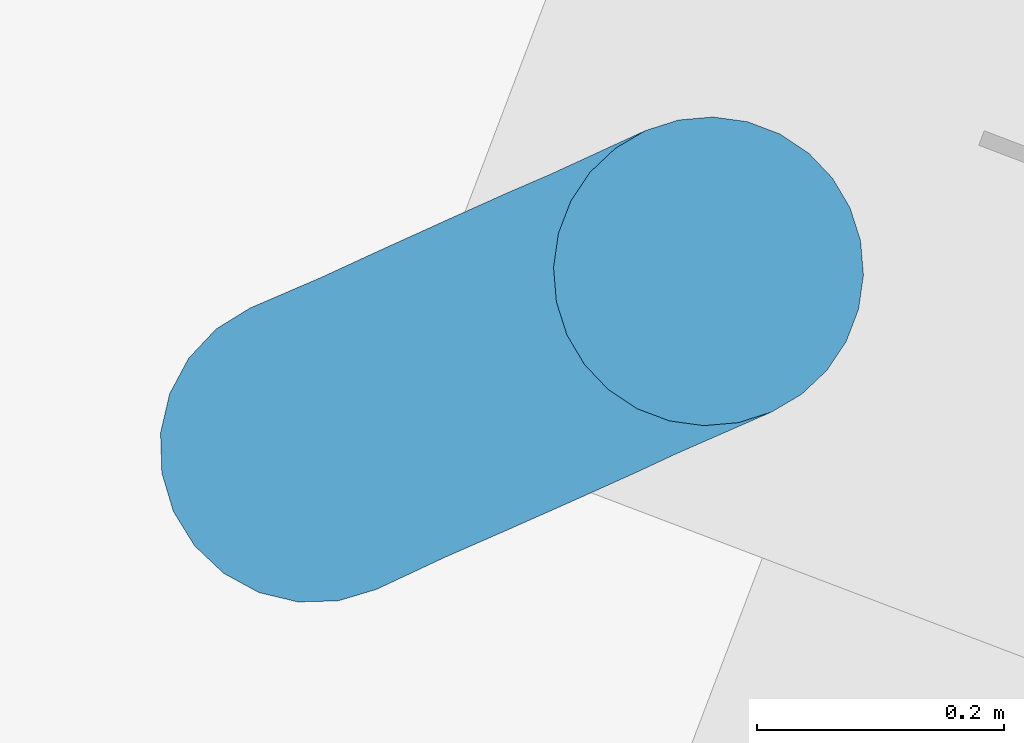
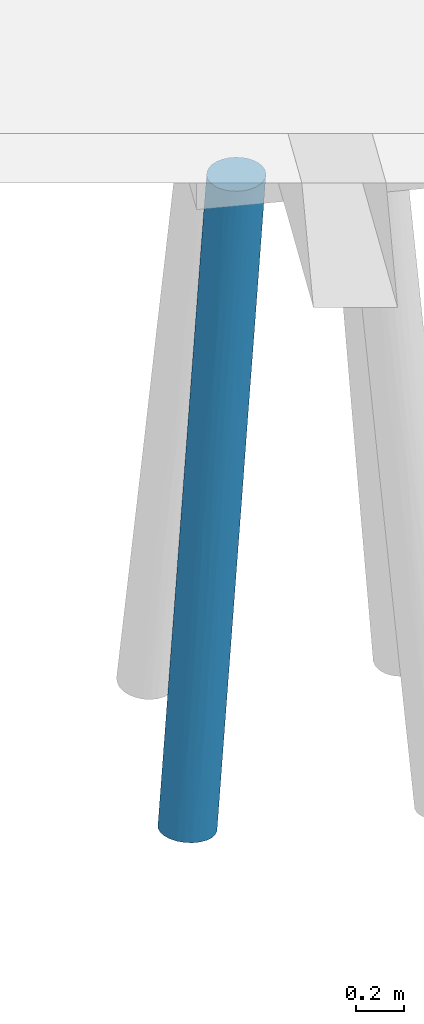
# One storey, part 25 of 46: 1 pile.
"""IFC2X3 building model written with IfcOpenShell, lengths in millimetres."""

import ifcopenshell
import ifcopenshell.guid

model = None  # the IFC model being written
_history = None  # IfcOwnerHistory: only IFC2X3 demands one
_inside = {}  # id of a spatial element -> (the spatial element, [elements in it])
_under = {}  # id of a project, library or spatial element -> (it, [spatial elements below it])
_declared = {}  # id of a project -> (the project, [libraries it declares])
_typed = {}  # id of a type object -> (the type object, [elements of that type])
_made_of = {}  # id of a material, layer set ... -> (it, [elements and type objects made of it])


def new_model(schema):
    """Start an empty IFC model of exactly this schema.

    Asked for "IFC4X3", IfcOpenShell would pick the latest addendum, in which some entities
    have other attributes; the version numbers below select the first issue.
    IFC2X3 requires an IfcOwnerHistory on every rooted entity: one is made here for all.
    """
    global model, _history
    if schema == "IFC4X3":
        model = ifcopenshell.file(schema_version=(4, 3, 0, 0))
    else:
        model = ifcopenshell.file(schema=schema)
    _inside.clear()
    _under.clear()
    _declared.clear()
    _typed.clear()
    _made_of.clear()
    _history = None
    if model.schema == "IFC2X3":
        org = make("IfcOrganization", Name="unknown")
        user = make(
            "IfcPersonAndOrganization",
            ThePerson=make("IfcPerson", FamilyName="unknown"),
            TheOrganization=org,
        )
        app = make(
            "IfcApplication",
            ApplicationDeveloper=org,
            Version="unknown",
            ApplicationFullName="unknown",
            ApplicationIdentifier="unknown",
        )
        _history = make(
            "IfcOwnerHistory",
            OwningUser=user,
            OwningApplication=app,
            ChangeAction="ADDED",
            CreationDate=0,
        )
    return model


def make(cls, **values):
    """One entity of the class cls with the attributes given. An attribute that is None is left unset."""
    return model.create_entity(
        cls, **{name: value for name, value in values.items() if value is not None}
    )


def entity(cls, *values):
    """Any entity or typed value of the class cls, its attributes in the order of the schema. None: left unset."""
    e = model.create_entity(cls)
    for i, value in enumerate(values):
        if value is not None:
            e[i] = value
    return e


def rooted(cls, **values):
    """An entity with a GlobalId (a new one), such as an element, a storey or a relation."""
    return make(cls, GlobalId=ifcopenshell.guid.new(), OwnerHistory=_history, **values)


def si_unit(unit_type, name, prefix=None):
    """IfcSIUnit, for example si_unit("LENGTHUNIT", "METRE", prefix="MILLI")."""
    return make("IfcSIUnit", UnitType=unit_type, Prefix=prefix, Name=name)


def converted_unit(unit_type, name, factor, base, dimensions=None, offset=None):
    """IfcConversionBasedUnit, such as the inch: factor (a typed value) times the base unit."""
    return make(
        "IfcConversionBasedUnit"
        if offset is None
        else "IfcConversionBasedUnitWithOffset",
        ConversionOffset=offset,
        Dimensions=None
        if dimensions is None
        else entity("IfcDimensionalExponents", *dimensions),
        UnitType=unit_type,
        Name=name,
        ConversionFactor=make(
            "IfcMeasureWithUnit", ValueComponent=factor, UnitComponent=base
        ),
    )


def derived_unit(unit_type, elements):
    """IfcDerivedUnit: a product of units, each with its exponent."""
    return make(
        "IfcDerivedUnit",
        Elements=[
            make("IfcDerivedUnitElement", Unit=unit, Exponent=power)
            for unit, power in elements
        ],
        UnitType=unit_type,
    )


def assignment(units):
    """IfcUnitAssignment: the units of a project."""
    return None if units is None else make("IfcUnitAssignment", Units=units)


def point(xyz):
    """IfcCartesianPoint."""
    return None if xyz is None else make("IfcCartesianPoint", Coordinates=xyz)


def direction(xyz):
    """IfcDirection."""
    return None if xyz is None else make("IfcDirection", DirectionRatios=xyz)


def frame(location, z_axis=None, x_axis=None):
    """IfcAxis2Placement3D, a coordinate frame: its origin and axes. An axis left out is left unset."""
    return make(
        "IfcAxis2Placement3D",
        Location=point(location),
        Axis=direction(z_axis),
        RefDirection=direction(x_axis),
    )


def origin():
    """The frame at (0, 0, 0) with its axes left unset."""
    return frame((0.0, 0.0, 0.0))


def place(relative_to, where):
    """IfcLocalPlacement: puts the frame where relative to a parent placement (None: the world)."""
    return make(
        "IfcLocalPlacement", PlacementRelTo=relative_to, RelativePlacement=where
    )


def context(
    kind, dimensions, precision=None, world=None, true_north=None, identifier=None
):
    """IfcGeometricRepresentationContext, for example the 3D "Model" context."""
    return make(
        "IfcGeometricRepresentationContext",
        ContextIdentifier=identifier,
        ContextType=kind,
        CoordinateSpaceDimension=dimensions,
        Precision=precision,
        WorldCoordinateSystem=world,
        TrueNorth=true_north,
    )


def subcontext(parent, identifier, kind, view, scale=None):
    """IfcGeometricRepresentationSubContext, for example "Body" below "Model"."""
    return make(
        "IfcGeometricRepresentationSubContext",
        ContextIdentifier=identifier,
        ContextType=kind,
        ParentContext=parent,
        TargetScale=scale,
        TargetView=view,
    )


def project(units=None, contexts=None):
    """IfcProject with its units and contexts."""
    return rooted(
        "IfcProject",
        Name="project",
        RepresentationContexts=contexts,
        UnitsInContext=assignment(units),
    )


def spatial(cls, under=None, at=None, **own):
    """A site, building, storey or space (cls), placed at a placement, below another one or the project."""
    s = rooted(cls, ObjectPlacement=at, **own)
    if under is not None:
        _under.setdefault(under.id(), (under, []))[1].append(s)
    return s


def faces_of(points, faces, orient=None, outer=None):
    """IfcFace entities. A face is a list of loops; a loop is a list of indices into points, from 0.

    orient and outer hold one flag for each loop. By default every Orientation is true, the
    first loop of a face is its IfcFaceOuterBound and the others are IfcFaceBound.
    """
    made = []
    for i, loops in enumerate(faces):
        bounds = []
        for j, loop in enumerate(loops):
            is_outer = j == 0 if outer is None else outer[i][j]
            bounds.append(
                make(
                    "IfcFaceOuterBound" if is_outer else "IfcFaceBound",
                    Bound=make("IfcPolyLoop", Polygon=[points[k] for k in loop]),
                    Orientation=True if orient is None else orient[i][j],
                )
            )
        made.append(make("IfcFace", Bounds=bounds))
    return made


def faceted_brep(points, faces, orient=None, outer=None, voids=None):
    """IfcFacetedBrep: a solid bounded by flat faces; with voids (closed shells), ...WithVoids."""
    shared = [point(p) for p in points]
    hull = make("IfcClosedShell", CfsFaces=faces_of(shared, faces, orient, outer))
    if voids is None:
        return make("IfcFacetedBrep", Outer=hull)
    return make(
        "IfcFacetedBrepWithVoids",
        Outer=hull,
        Voids=[
            make(cls, CfsFaces=faces_of(shared, fs, o, b)) for cls, fs, o, b in voids
        ],
    )


def shape(context_of_items, identifier, shape_type, items):
    """IfcShapeRepresentation: the items that make up one representation, for example the "Body"."""
    return make(
        "IfcShapeRepresentation",
        ContextOfItems=context_of_items,
        RepresentationIdentifier=identifier,
        RepresentationType=shape_type,
        Items=items,
    )


def source(mapping_origin, context_of_items, identifier, shape_type, items):
    """IfcRepresentationMap: a shape defined once, which mapped items show again and again."""
    return make(
        "IfcRepresentationMap",
        MappingOrigin=mapping_origin,
        MappedRepresentation=shape(context_of_items, identifier, shape_type, items),
    )


def transform(
    local_origin,
    x_axis=None,
    y_axis=None,
    z_axis=None,
    scale=None,
    scale2=None,
    scale3=None,
    uniform=True,
):
    """IfcCartesianTransformationOperator3D, or its non-uniform kind. x_axis, y_axis, z_axis: its Axis1, 2, 3."""
    if uniform:
        return make(
            "IfcCartesianTransformationOperator3D",
            Axis1=direction(x_axis),
            Axis2=direction(y_axis),
            LocalOrigin=point(local_origin),
            Scale=scale,
            Axis3=direction(z_axis),
        )
    return make(
        "IfcCartesianTransformationOperator3DnonUniform",
        Axis1=direction(x_axis),
        Axis2=direction(y_axis),
        LocalOrigin=point(local_origin),
        Scale=scale,
        Axis3=direction(z_axis),
        Scale2=scale2,
        Scale3=scale3,
    )


def mapped(mapping_source, mapping_target):
    """IfcMappedItem: shows the shape of a source again, moved by a transform."""
    return make(
        "IfcMappedItem", MappingSource=mapping_source, MappingTarget=mapping_target
    )


def material(Name=None, Category=None):
    """IfcMaterial."""
    return make("IfcMaterial", Name=Name, Category=Category)


def made_of(thing, what):
    """Note that an element or type object is made of a material, layer set ...; save() writes the relation."""
    if what is not None:
        _made_of.setdefault(what.id(), (what, []))[1].append(thing)
    return thing


def type_object(cls, material=None, **own):
    """A type object (cls), such as IfcWallType, which elements share."""
    return made_of(rooted(cls, **own), material)


def type_shapes(of_type, sources):
    """Give a type object the sources (RepresentationMaps) that its elements show as mapped items."""
    of_type.RepresentationMaps = sources


def element(
    cls,
    number,
    at=None,
    inside=None,
    cuts=None,
    type_object=None,
    material=None,
    context=None,
    identifier="Body",
    shape_type=None,
    held_by="IfcProductDefinitionShape",
    body=None,
    shapes=None,
    **own,
):
    """One element of the class cls, such as IfcWall. Its Tag is "e" and its number.

    at: its placement. inside: the storey or other place that contains it. cuts: it is an
    opening in that element (IfcRelVoidsElement). A single representation is given by context,
    identifier, shape_type and body (its items); several are given by shapes. held_by: the class
    of the entity that holds the representations. save() writes the other relations.
    """
    e = rooted(cls, Tag="e%d" % number, ObjectPlacement=at, **own)
    if body is not None:
        shapes = [shape(context, identifier, shape_type, body)]
    if shapes is not None:
        e.Representation = make(held_by, Representations=shapes)
    if inside is not None:
        _inside.setdefault(inside.id(), (inside, []))[1].append(e)
    if cuts is not None:
        rooted(
            "IfcRelVoidsElement", RelatingBuildingElement=cuts, RelatedOpeningElement=e
        )
    if type_object is not None:
        _typed.setdefault(type_object.id(), (type_object, []))[1].append(e)
    return made_of(e, material)


def aggregate(whole, parts):
    """IfcRelAggregates: a whole, such as a stair, and the parts it consists of."""
    return rooted("IfcRelAggregates", RelatingObject=whole, RelatedObjects=parts)


def save(model, path):
    """Write the relations noted so far, then the file.

    IfcRelAggregates (storeys below a building ...), IfcRelContainedInSpatialStructure (elements
    in a storey), IfcRelDefinesByType, IfcRelAssociatesMaterial and IfcRelDeclares: one each for
    every whole, place, type object, material and project.
    """
    for whole, parts in _under.values():
        aggregate(whole, parts)
    for where, things in _inside.values():
        rooted(
            "IfcRelContainedInSpatialStructure",
            RelatedElements=things,
            RelatingStructure=where,
        )
    for kind, things in _typed.values():
        rooted("IfcRelDefinesByType", RelatedObjects=things, RelatingType=kind)
    for what, things in _made_of.values():
        rooted("IfcRelAssociatesMaterial", RelatedObjects=things, RelatingMaterial=what)
    for by, libraries in _declared.values():
        rooted("IfcRelDeclares", RelatingContext=by, RelatedDefinitions=libraries)
    model.write(path)


model = new_model("IFC2X3")

# Units and contexts
model_context = context("Model", 3, precision=0.01, world=origin(), true_north=direction((6.123233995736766e-17, 1.0)))
body_context = subcontext(model_context, "Body", "Model", "MODEL_VIEW")
ifc_project = project(units=[si_unit("LENGTHUNIT", "METRE", prefix="MILLI"), converted_unit("PLANEANGLEUNIT", "DEGREE", entity("IfcPlaneAngleMeasure", 0.017453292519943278), si_unit("PLANEANGLEUNIT", "RADIAN"), dimensions=[0, 0, 0, 0, 0, 0, 0]), si_unit("AREAUNIT", "SQUARE_METRE"), derived_unit("THERMALTRANSMITTANCEUNIT", [(si_unit("MASSUNIT", "GRAM", prefix="KILO"), 1), (si_unit("THERMODYNAMICTEMPERATUREUNIT", "KELVIN"), -1), (si_unit("TIMEUNIT", "SECOND"), -3)])], contexts=[model_context])

# Site, building, storey
site_placement = place(None, frame((-72937.88054949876, 11621.45624098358, 0.0), z_axis=(0.0, 0.0, 1.0), x_axis=(0.9346418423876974, -0.35559053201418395, 0.0)))
site = spatial("IfcSite", under=ifc_project, at=site_placement, Name="Default", CompositionType="ELEMENT")
building_placement = place(site_placement, origin())
building = spatial("IfcBuilding", under=site, at=building_placement, CompositionType="ELEMENT")
storey_placement = place(building_placement, origin())
storey = spatial("IfcBuildingStorey", under=building, at=storey_placement, Name="00 begane grond", CompositionType="ELEMENT", Elevation=0.0)

# Pile
ifc_material = material(Name="beton_gewapend_prefab-element_c45/55")
type_product = type_object("IfcTypeProduct", Name="Type 01", material=ifc_material)
shared_shape = source(origin(), body_context, "Body", "Brep", [
    faceted_brep([(50.02983679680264, 41.219149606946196, -1478.3429510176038), (41.770052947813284, 0.0, -1615.992665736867), (-21.492869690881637, 34.07967924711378, -2142.478153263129), (-196.51418126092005, 41.35907440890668, -1560.459568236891), (-209.7685117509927, 0.0, -1615.993463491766), (-120.39371842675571, 27.815116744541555, -840.0), (-105.46135978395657, 105.60554685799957, -2414.744852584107), (-29.01608810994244, 89.9027707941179, -1907.5825387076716), (-88.8773638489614, 91.39060439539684, -2432.143714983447), (44.04069234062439, 66.4881713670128, -1422.150587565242), (100.55257203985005, 77.93622523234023, -840.0), (115.53639022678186, 54.235467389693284, -840.0), (-181.63351961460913, 47.83542906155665, -3540.4622999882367), (-228.8866429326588, 32.35238063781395, -4013.333582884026), (-241.29781855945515, 62.499999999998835, -4011.9545633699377), (124.838162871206, 27.815116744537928, -840.0), (127.99146025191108, 0.0, -840.0), (80.6380595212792, 97.7289353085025, -840.0), (-1.0422673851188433, 115.29700921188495, -1306.6345347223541), (56.79144948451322, 112.62110848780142, -840.0), (-82.66188090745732, 124.23733970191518, -1479.1096584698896), (-119.59016639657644, 124.77532272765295, -1868.4753366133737), (-148.0004270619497, 121.55050259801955, -1927.9224619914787), (-25.764066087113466, 121.86598902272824, -840.0), (2.2222222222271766, 125.0, -840.0), (35.238837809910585, 88.30507823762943, -1343.9943162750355), (30.208510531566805, 121.86598902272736, -840.0), (-38.42848163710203, 123.4640225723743, -1382.7576650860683), (-59.298226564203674, 117.91120533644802, -1769.4495348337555), (-121.64165871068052, 118.88184081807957, -2304.5646505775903), (-105.46067851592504, 124.17311504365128, -1939.1271630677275), (-181.54271840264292, 0.0, -3625.807607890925), (-224.65342205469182, 0.0, -4013.803940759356), (-186.42266103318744, 99.1691675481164, -3226.87509877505), (-111.16783038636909, 79.40373738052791, -2734.7208670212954), (-187.86059930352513, 76.09517863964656, -3448.7603995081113), (-294.2594631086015, 123.9306076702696, -3360.5895502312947), (-348.8888888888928, 125.0, -4000.0), (-381.04339378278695, 120.74072828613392, -3996.4272772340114), (-71.50265177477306, 37.61355729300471, -2582.985799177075), (-105.1394697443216, 22.11026756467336, -2920.330251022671), (-119.53291308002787, 47.835429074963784, -2981.5568411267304), (-160.26870491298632, 23.53094104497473, -3414.1045295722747), (-238.88036705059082, 115.48494156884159, -3443.09153660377), (-286.7711554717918, 108.25317547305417, -4006.901970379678), (-261.04114782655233, 88.38834764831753, -4009.7608601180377), (-316.7343839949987, 120.74072828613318, -4003.5727227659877), (-61.65923548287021, 74.64816535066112, -2322.8523974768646), (-84.00174733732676, 60.02171841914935, -2608.908596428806), (-151.97718420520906, 123.99260475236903, -2371.21148137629), (-173.2739820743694, 115.31995815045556, -2856.223431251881), (-123.54701580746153, 0.0, -840.0), (-295.99000769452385, 0.0, -2391.9869269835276), (-250.82857575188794, 22.617884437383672, -2004.2180489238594), (-107.44397040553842, 105.89787173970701, -1225.6035634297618), (-76.19361507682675, 97.72893530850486, -840.0), (-52.347005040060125, 112.6211084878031, -840.0), (-281.4812245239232, 123.93060767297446, -3541.076638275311), (-109.06614769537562, 117.57336724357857, -1457.2474766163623), (-111.0919457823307, 54.235467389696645, -840.0), (-15.85514051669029, 105.72630914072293, -1606.5585830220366), (-158.7756678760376, 105.96661342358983, -1688.5825591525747), (-146.68659472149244, 88.47759853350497, -1380.5978408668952), (-404.9818286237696, 23.95962394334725, -3393.901362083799), (-384.5571817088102, 0.0, -3189.0914931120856), (-348.5966640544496, 22.310072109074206, -2883.6216315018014), (-456.47995921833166, 62.500000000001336, -3988.0454366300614), (-468.89113484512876, 32.35238063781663, -3986.6664171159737), (-416.28748070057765, 47.83542904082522, -3560.8267027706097), (-337.6622645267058, 115.48494156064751, -3465.7921474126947), (-411.00662230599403, 108.25317547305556, -3993.0980296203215), (-204.57839676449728, 89.69967503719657, -1912.868459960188), (-241.9682357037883, 100.09571921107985, -2359.71747411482), (-255.69185443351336, 84.13968982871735, -2324.129304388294), (-96.10812759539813, 77.93622523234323, -840.0), (-377.92930595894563, 99.16916753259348, -3572.292603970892), (-436.73662995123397, 88.38834764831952, -3990.239139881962), (-206.9618348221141, 60.37792335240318, -1731.5361763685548), (-296.17437932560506, 43.53585544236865, -2464.5182361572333), (-358.4295495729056, 47.83542903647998, -3040.1053226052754), (-379.61635653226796, 76.09517861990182, -3378.5322028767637), (-430.0136077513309, 0.0, -3598.1993274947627), (-306.3551153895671, 77.61365432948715, -2729.901333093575), (-213.4617402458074, 118.14633713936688, -2411.4959163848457), (-159.2186646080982, 65.41382269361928, -1328.4086999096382), (-67.97340634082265, 109.92592992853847, -2010.6352011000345), (-179.43548008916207, 124.76102802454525, -2404.960456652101), (-13.219750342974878, 66.34050229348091, -1938.3332116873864), (-236.1740964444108, 124.51562049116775, -2886.015168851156), (-270.1086403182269, 119.49229851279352, -2958.6820679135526), (-268.3059733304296, 110.2317272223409, -2741.026078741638), (-320.7170568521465, 99.16916752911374, -3057.382361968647), (-473.12435572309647, 0.0, -3986.1960592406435), (-138.91569201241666, 99.37675608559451, -2796.855638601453), (-220.46267944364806, 123.93060767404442, -2991.909732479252), (-44.45135435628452, 0.0, -2391.9853314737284), (-247.1590829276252, 66.69543969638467, -2127.0964328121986), (-134.55238820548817, 0.0, -3202.8946361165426), (-89.50217198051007, 0.0, -2797.442690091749), (-340.273594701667, 0.0, -2790.5392100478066), (-303.09738986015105, 21.900839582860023, -2473.462328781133), (-246.59414544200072, 45.758522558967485, -2025.9931784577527), (-120.39371842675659, -27.815116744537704, -840.0), (-111.09194578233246, -54.23546738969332, -840.0), (-96.1081275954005, -77.93622523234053, -840.0), (-76.19361507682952, -97.72893530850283, -840.0), (-52.3470050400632, -112.62110848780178, -840.0), (-25.764066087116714, -121.86598902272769, -840.0), (2.22222222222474, -125.0, -840.0), (30.20851053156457, -121.86598902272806, -840.0), (56.7914494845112, -112.62110848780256, -840.0), (80.63805952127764, -97.72893530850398, -840.0), (100.55257203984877, -77.93622523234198, -840.0), (115.53639022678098, -54.23546738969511, -840.0), (124.83816287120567, -27.815116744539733, -840.0), (-241.96823566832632, -100.09571920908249, -2359.717473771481), (-268.30597321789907, -110.23172722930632, -2741.026077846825), (-213.46174017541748, -118.14633716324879, -2411.4959163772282), (-187.1422997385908, -67.5957584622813, -1592.1374826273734), (-196.5141812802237, -41.359074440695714, -1560.4595685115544), (-82.66188086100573, -124.2373397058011, -1479.1096583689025), (-13.219750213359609, -66.3405022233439, -1938.3332109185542), (35.23883807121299, -88.30507821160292, -1343.9943141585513), (-29.016087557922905, -89.90277069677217, -1907.5825346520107), (-109.06614766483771, -117.57336725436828, -1457.2474766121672), (-294.2594631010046, -123.93060767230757, -3360.5895503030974), (-337.66226453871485, -115.48494156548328, -3465.7921476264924), (-381.04339378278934, -120.74072828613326, -3996.4272772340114), (-320.717056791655, -99.16916754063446, -3057.382361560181), (-379.61635651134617, -76.09517863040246, -3378.53220276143), (-377.9293059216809, -99.16916753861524, -3572.292603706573), (-186.42266103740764, -99.16916753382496, -3226.875098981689), (-238.88036707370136, -115.48494156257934, -3443.0915369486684), (-286.77115547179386, -108.25317547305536, -4006.901970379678), (-228.88664293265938, -32.352380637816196, -4013.333582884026), (-181.63351956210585, -47.835429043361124, -3540.4622995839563), (-241.29781855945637, -62.50000000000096, -4011.9545633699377), (-107.44397039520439, -105.89787175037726, -1225.6035634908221), (-38.428481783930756, -123.46402262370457, -1382.7576634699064), (-468.89113484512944, -32.35238063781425, -3986.6664171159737), (-138.91569233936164, -99.37675620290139, -2796.855640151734), (-173.2739821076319, -115.31995832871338, -2856.223427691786), (-160.26870486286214, -23.530941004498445, -3414.104529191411), (-187.86059935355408, -76.09517862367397, -3448.760400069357), (-261.041147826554, -88.38834764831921, -4009.7608601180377), (-306.3551154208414, -77.61365434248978, -2729.901333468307), (-348.8888888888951, -125.0, -4000.0), (-416.2874806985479, -47.83542904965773, -3560.826702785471), (-456.47995921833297, -62.49999999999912, -3988.0454366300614), (-436.7366299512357, -88.38834764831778, -3990.239139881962), (-411.0066223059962, -108.25317547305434, -3993.0980296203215), (-71.50265159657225, -37.613557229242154, -2582.9857977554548), (-21.492869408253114, -34.07967918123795, -2142.4781508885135), (-84.00174724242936, -60.02171839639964, -2608.9085956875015), (-281.4812244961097, -123.9306076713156, -3541.076638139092), (-220.46267940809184, -123.93060767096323, -2991.9097323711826), (-158.7756678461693, -105.9666134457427, -1688.5825592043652), (-148.00042700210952, -121.5505026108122, -1927.922461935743), (-1.0422669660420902, -115.29700910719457, -1306.6345332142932), (-59.298225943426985, -117.91120535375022, -1769.4495288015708), (-15.85514048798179, -105.72630911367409, -1606.5585831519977), (-270.1086403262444, -119.4922985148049, -2958.682068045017), (50.02983688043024, -41.21914955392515, -1478.342950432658), (-146.6865947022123, -88.47759855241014, -1380.5978408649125), (-296.1743793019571, -43.53585546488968, -2464.5182360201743), (-348.59666404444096, -22.310072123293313, -2883.6216314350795), (-358.42954957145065, -47.83542905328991, -3040.1053226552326), (57.21126448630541, -65.80573689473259, -1307.4694469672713), (-67.97340649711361, -109.92593000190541, -2010.6352012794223), (-121.64165783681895, -118.88184074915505, -2304.564644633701), (-105.13946990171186, -22.110267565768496, -2920.330252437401), (-179.43547996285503, -124.76102802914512, -2404.960456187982), (-316.73438399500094, -120.7407282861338, -4003.5727227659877), (-119.53291301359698, -47.8354290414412, -2981.5568406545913), (-250.82857577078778, -22.61788446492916, -2004.218049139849), (-404.98182862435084, -23.95962395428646, -3393.901362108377), (-61.65923550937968, -74.64816548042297, -2322.852396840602), (-243.17628094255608, -45.971171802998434, -1995.9919190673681), (-105.46135971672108, -105.60554680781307, -2414.7448526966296), (-111.16783063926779, -79.40373735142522, -2734.7208695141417), (-119.59016630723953, -124.77532273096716, -1868.4753363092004), (-236.1740963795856, -124.51562049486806, -2886.0151686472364), (-204.57839665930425, -89.69967507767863, -1912.868459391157), (-247.15908295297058, -66.69543974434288, -2127.09643331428), (-88.87736442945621, -91.39060438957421, -2432.1437202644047), (-255.69185439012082, -84.13968979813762, -2324.1293037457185), (-105.46067843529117, -124.17311503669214, -1939.1271628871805), (-168.17815851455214, -123.85607816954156, -2526.387901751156), (-303.0973898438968, -21.90083960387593, -2473.4623286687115)], [[[0, 1, 2]], [[3, 4, 5]], [[6, 7, 8]], [[9, 10, 11]], [[12, 13, 14]], [[15, 16, 1]], [[17, 18, 19]], [[20, 21, 22]], [[23, 24, 20]], [[25, 17, 10]], [[26, 18, 27]], [[27, 20, 24]], [[28, 29, 30]], [[31, 32, 13]], [[33, 34, 35]], [[36, 37, 38]], [[39, 40, 41]], [[41, 42, 12]], [[43, 33, 44]], [[45, 33, 35]], [[46, 43, 44]], [[34, 47, 48]], [[49, 29, 50]], [[4, 51, 5]], [[30, 27, 28]], [[52, 4, 53]], [[54, 55, 56]], [[37, 36, 57]], [[56, 23, 58]], [[46, 37, 57]], [[59, 3, 5]], [[11, 15, 0]], [[3, 53, 4]], [[7, 60, 25]], [[44, 33, 45]], [[54, 61, 62]], [[63, 64, 65]], [[66, 67, 68]], [[36, 38, 69]], [[70, 69, 38]], [[71, 72, 73]], [[74, 55, 62]], [[75, 70, 76]], [[71, 77, 62]], [[78, 79, 65]], [[80, 75, 76]], [[63, 81, 64]], [[82, 80, 79]], [[66, 80, 76]], [[61, 83, 72]], [[59, 84, 3]], [[85, 6, 29]], [[25, 10, 9]], [[86, 21, 30]], [[35, 14, 45]], [[33, 43, 50]], [[54, 56, 58]], [[22, 58, 20]], [[87, 0, 2]], [[0, 15, 1]], [[83, 86, 88]], [[40, 42, 41]], [[89, 69, 90]], [[84, 59, 74]], [[72, 71, 61]], [[91, 80, 82]], [[79, 80, 68]], [[14, 35, 12]], [[92, 81, 67]], [[41, 35, 34]], [[48, 39, 41]], [[93, 8, 34]], [[50, 93, 33]], [[94, 43, 57]], [[36, 69, 89]], [[91, 69, 75]], [[48, 41, 34]], [[95, 2, 1]], [[91, 82, 72]], [[78, 96, 82]], [[90, 91, 72]], [[71, 62, 61]], [[13, 42, 31]], [[41, 12, 35]], [[46, 57, 43]], [[94, 57, 36]], [[97, 31, 42]], [[40, 97, 42]], [[12, 42, 13]], [[98, 97, 40, 95]], [[2, 95, 39]], [[55, 54, 62]], [[61, 54, 58]], [[83, 61, 22]], [[20, 58, 23]], [[58, 22, 61]], [[86, 83, 22]], [[88, 89, 83]], [[29, 49, 30]], [[88, 36, 89]], [[83, 89, 90]], [[40, 39, 95]], [[87, 2, 48]], [[39, 48, 2]], [[87, 48, 47]], [[87, 47, 7]], [[47, 34, 8]], [[9, 0, 87]], [[85, 60, 7]], [[17, 25, 60]], [[87, 7, 9]], [[47, 8, 7]], [[6, 8, 93]], [[50, 6, 93]], [[33, 93, 34]], [[6, 50, 29]], [[50, 43, 94]], [[60, 85, 28]], [[49, 86, 30]], [[60, 28, 18]], [[28, 27, 18]], [[26, 27, 24]], [[20, 27, 21]], [[60, 18, 17]], [[26, 19, 18]], [[84, 62, 77]], [[82, 96, 73]], [[83, 90, 72]], [[91, 90, 69]], [[88, 94, 36]], [[94, 88, 49]], [[66, 68, 80]], [[68, 67, 63]], [[63, 65, 79]], [[81, 63, 67]], [[68, 63, 79]], [[78, 82, 79]], [[65, 99, 100]], [[53, 101, 78]], [[78, 65, 100]], [[70, 75, 69]], [[91, 75, 80]], [[71, 73, 96]], [[73, 72, 82]], [[28, 85, 29]], [[6, 85, 7]], [[52, 53, 100]], [[96, 78, 101]], [[3, 84, 77]], [[62, 84, 74]], [[22, 21, 86]], [[30, 21, 27]], [[0, 9, 11]], [[25, 9, 7]], [[86, 49, 88]], [[94, 49, 50]], [[78, 100, 53]], [[65, 64, 99]], [[52, 100, 99]], [[96, 101, 77]], [[101, 53, 3]], [[3, 77, 101]], [[96, 77, 71]], [[56, 55, 74, 59, 5, 51, 102, 103, 104, 105, 106, 107, 108, 109, 110, 111, 112, 113, 114, 16, 15, 11, 10, 17, 19, 26, 24, 23]], [[4, 102, 51]], [[115, 116, 117]], [[104, 103, 118]], [[103, 102, 119]], [[108, 107, 120]], [[121, 122, 123]], [[107, 124, 120]], [[125, 126, 127]], [[128, 129, 130]], [[131, 132, 133]], [[134, 135, 136]], [[106, 105, 137]], [[109, 108, 138]], [[81, 92, 139]], [[131, 140, 141]], [[31, 97, 142]], [[143, 131, 144]], [[145, 129, 128]], [[125, 127, 146]], [[147, 139, 148]], [[130, 149, 150]], [[151, 152, 153]], [[125, 154, 155]], [[156, 157, 124]], [[158, 159, 160]], [[119, 102, 4]], [[110, 109, 158]], [[126, 125, 161]], [[162, 114, 113]], [[111, 158, 160]], [[163, 137, 105]], [[164, 165, 166]], [[122, 112, 111]], [[1, 16, 114]], [[162, 113, 167]], [[122, 121, 167]], [[168, 159, 169]], [[142, 97, 170]], [[171, 157, 117]], [[146, 172, 154]], [[104, 118, 163]], [[160, 159, 168]], [[104, 163, 105]], [[131, 133, 144]], [[115, 145, 128]], [[143, 144, 136]], [[152, 162, 121]], [[148, 149, 129]], [[151, 153, 173]], [[4, 174, 119]], [[166, 175, 147]], [[176, 121, 123]], [[177, 174, 164]], [[178, 169, 141]], [[132, 172, 133]], [[173, 179, 143]], [[180, 157, 171]], [[137, 156, 124]], [[162, 1, 114]], [[95, 1, 152]], [[126, 150, 127]], [[32, 31, 134]], [[161, 181, 117]], [[115, 156, 182]], [[177, 183, 118]], [[148, 129, 147]], [[145, 164, 166]], [[172, 132, 154]], [[165, 175, 166]], [[178, 141, 140]], [[131, 143, 179]], [[173, 143, 135]], [[140, 184, 178]], [[121, 176, 153]], [[150, 126, 130]], [[117, 116, 161]], [[162, 152, 1]], [[151, 170, 95]], [[129, 145, 166]], [[182, 156, 163]], [[182, 183, 185]], [[156, 115, 117]], [[136, 135, 143]], [[135, 134, 142]], [[146, 154, 125]], [[155, 154, 132]], [[142, 170, 173]], [[31, 142, 134]], [[135, 142, 173]], [[173, 170, 151]], [[98, 95, 170, 97]], [[124, 107, 106]], [[156, 137, 163]], [[106, 137, 124]], [[120, 124, 157]], [[120, 157, 180]], [[117, 157, 156]], [[169, 186, 187]], [[125, 181, 161]], [[128, 126, 116]], [[171, 117, 181]], [[153, 179, 173]], [[152, 151, 95]], [[179, 153, 176]], [[121, 153, 152]], [[176, 184, 179]], [[123, 168, 178]], [[184, 176, 123]], [[122, 111, 160]], [[112, 167, 113]], [[123, 122, 160]], [[131, 179, 140]], [[178, 184, 123]], [[184, 140, 179]], [[132, 131, 141]], [[141, 155, 132]], [[155, 187, 181]], [[155, 141, 187]], [[159, 186, 169]], [[186, 159, 138]], [[138, 158, 109]], [[186, 138, 180]], [[120, 138, 108]], [[159, 158, 138]], [[110, 158, 111]], [[115, 182, 185]], [[183, 182, 118]], [[161, 116, 126]], [[128, 116, 115]], [[171, 181, 187]], [[181, 125, 155]], [[139, 175, 81]], [[166, 147, 129]], [[64, 81, 175]], [[165, 64, 175]], [[147, 175, 139]], [[99, 64, 165]], [[145, 183, 164]], [[164, 188, 165]], [[4, 52, 174]], [[149, 130, 129]], [[128, 130, 126]], [[185, 145, 115]], [[145, 185, 183]], [[160, 168, 123]], [[178, 168, 169]], [[119, 174, 177]], [[164, 174, 188]], [[119, 118, 103]], [[163, 118, 182]], [[120, 180, 138]], [[186, 180, 171]], [[162, 167, 121]], [[122, 167, 112]], [[171, 187, 186]], [[169, 187, 141]], [[165, 188, 99]], [[52, 99, 188]], [[52, 188, 174]], [[119, 177, 118]], [[183, 177, 164]], [[127, 150, 149, 148, 139, 92, 67, 66, 76, 70, 38, 37, 46, 44, 45, 14, 13, 32, 134, 136, 144, 133, 172, 146]]]),
])
type_shapes(type_product, [shared_shape])
pile_placement = place(storey_placement, frame((62000.0, 28460.0, 0.0), z_axis=(0.0, 0.0, 1.0), x_axis=(0.7071067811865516, 0.7071067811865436, 0.0)))
element("IfcPile", 1, at=pile_placement, inside=storey, type_object=type_product, material=ifc_material, Name="17.21_Prefab funderingspaal rond", ObjectType="prefab paal rond", PredefinedType="NOTDEFINED", context=body_context, shape_type="MappedRepresentation", body=[
    mapped(shared_shape, transform((0.0, 0.0, 0.0), scale=1.0)),
])

save(model, "model.ifc")
